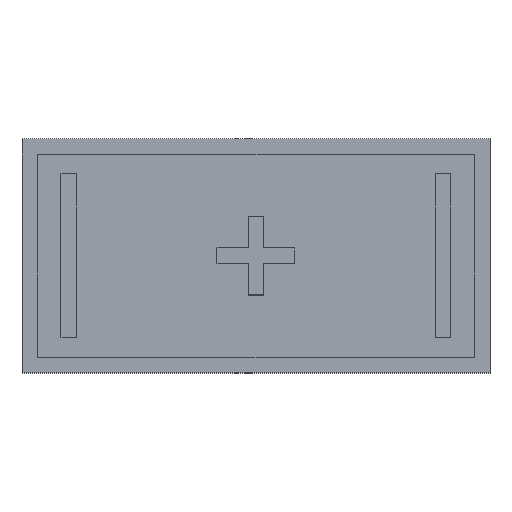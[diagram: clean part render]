
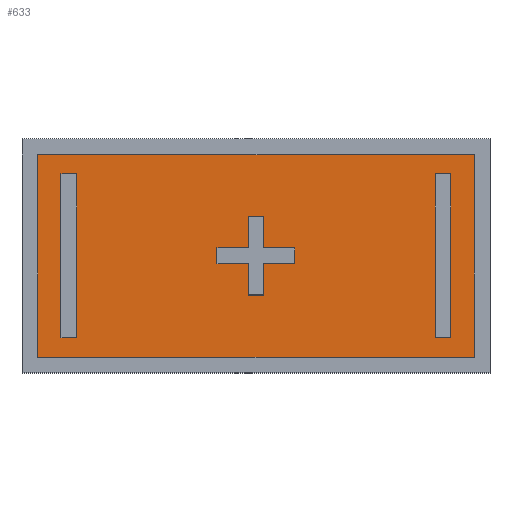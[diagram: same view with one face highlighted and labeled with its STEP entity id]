
A CAD part, top view. The second image highlights one B-rep face of the part: STEP entity #633.
In plain terms, the highlighted planar face has unit normal (0, 0, 1).
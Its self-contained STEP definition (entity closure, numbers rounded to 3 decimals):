
#136=ORIENTED_EDGE('',*,*,#188,.T.);
#137=ORIENTED_EDGE('',*,*,#192,.T.);
#138=ORIENTED_EDGE('',*,*,#195,.T.);
#139=ORIENTED_EDGE('',*,*,#198,.T.);
#140=ORIENTED_EDGE('',*,*,#200,.T.);
#141=ORIENTED_EDGE('',*,*,#204,.T.);
#142=ORIENTED_EDGE('',*,*,#207,.T.);
#143=ORIENTED_EDGE('',*,*,#210,.T.);
#144=ORIENTED_EDGE('',*,*,#213,.T.);
#145=ORIENTED_EDGE('',*,*,#216,.T.);
#146=ORIENTED_EDGE('',*,*,#219,.T.);
#147=ORIENTED_EDGE('',*,*,#222,.T.);
#148=ORIENTED_EDGE('',*,*,#225,.T.);
#149=ORIENTED_EDGE('',*,*,#228,.T.);
#150=ORIENTED_EDGE('',*,*,#231,.T.);
#151=ORIENTED_EDGE('',*,*,#234,.T.);
#152=ORIENTED_EDGE('',*,*,#236,.T.);
#153=ORIENTED_EDGE('',*,*,#240,.T.);
#154=ORIENTED_EDGE('',*,*,#243,.T.);
#155=ORIENTED_EDGE('',*,*,#246,.T.);
#156=ORIENTED_EDGE('',*,*,#259,.F.);
#157=ORIENTED_EDGE('',*,*,#250,.F.);
#158=ORIENTED_EDGE('',*,*,#254,.F.);
#159=ORIENTED_EDGE('',*,*,#257,.F.);
#188=EDGE_CURVE('',#272,#273,#328,.T.);
#192=EDGE_CURVE('',#273,#276,#332,.T.);
#195=EDGE_CURVE('',#276,#278,#335,.T.);
#198=EDGE_CURVE('',#278,#272,#338,.T.);
#200=EDGE_CURVE('',#280,#281,#340,.T.);
#204=EDGE_CURVE('',#281,#284,#344,.T.);
#207=EDGE_CURVE('',#284,#286,#347,.T.);
#210=EDGE_CURVE('',#286,#288,#350,.T.);
#213=EDGE_CURVE('',#288,#290,#353,.T.);
#216=EDGE_CURVE('',#290,#292,#356,.T.);
#219=EDGE_CURVE('',#292,#294,#359,.T.);
#222=EDGE_CURVE('',#294,#296,#362,.T.);
#225=EDGE_CURVE('',#296,#298,#365,.T.);
#228=EDGE_CURVE('',#298,#300,#368,.T.);
#231=EDGE_CURVE('',#300,#302,#371,.T.);
#234=EDGE_CURVE('',#302,#280,#374,.T.);
#236=EDGE_CURVE('',#304,#305,#376,.T.);
#240=EDGE_CURVE('',#305,#308,#380,.T.);
#243=EDGE_CURVE('',#308,#310,#383,.T.);
#246=EDGE_CURVE('',#310,#304,#386,.T.);
#250=EDGE_CURVE('',#314,#315,#390,.T.);
#254=EDGE_CURVE('',#317,#314,#394,.T.);
#257=EDGE_CURVE('',#319,#317,#397,.T.);
#259=EDGE_CURVE('',#315,#319,#399,.T.);
#272=VERTEX_POINT('',#844);
#273=VERTEX_POINT('',#845);
#276=VERTEX_POINT('',#853);
#278=VERTEX_POINT('',#859);
#280=VERTEX_POINT('',#869);
#281=VERTEX_POINT('',#870);
#284=VERTEX_POINT('',#878);
#286=VERTEX_POINT('',#884);
#288=VERTEX_POINT('',#890);
#290=VERTEX_POINT('',#896);
#292=VERTEX_POINT('',#902);
#294=VERTEX_POINT('',#908);
#296=VERTEX_POINT('',#914);
#298=VERTEX_POINT('',#920);
#300=VERTEX_POINT('',#926);
#302=VERTEX_POINT('',#932);
#304=VERTEX_POINT('',#942);
#305=VERTEX_POINT('',#943);
#308=VERTEX_POINT('',#951);
#310=VERTEX_POINT('',#957);
#314=VERTEX_POINT('',#970);
#315=VERTEX_POINT('',#972);
#317=VERTEX_POINT('',#978);
#319=VERTEX_POINT('',#984);
#328=LINE('',#843,#412);
#332=LINE('',#852,#416);
#335=LINE('',#858,#419);
#338=LINE('',#864,#422);
#340=LINE('',#868,#424);
#344=LINE('',#877,#428);
#347=LINE('',#883,#431);
#350=LINE('',#889,#434);
#353=LINE('',#895,#437);
#356=LINE('',#901,#440);
#359=LINE('',#907,#443);
#362=LINE('',#913,#446);
#365=LINE('',#919,#449);
#368=LINE('',#925,#452);
#371=LINE('',#931,#455);
#374=LINE('',#937,#458);
#376=LINE('',#941,#460);
#380=LINE('',#950,#464);
#383=LINE('',#956,#467);
#386=LINE('',#962,#470);
#390=LINE('',#971,#474);
#394=LINE('',#979,#478);
#397=LINE('',#985,#481);
#399=LINE('',#988,#483);
#412=VECTOR('',#691,1000.);
#416=VECTOR('',#697,1000.);
#419=VECTOR('',#702,1000.);
#422=VECTOR('',#707,1000.);
#424=VECTOR('',#713,1000.);
#428=VECTOR('',#719,1000.);
#431=VECTOR('',#724,1000.);
#434=VECTOR('',#729,1000.);
#437=VECTOR('',#734,1000.);
#440=VECTOR('',#739,1000.);
#443=VECTOR('',#744,1000.);
#446=VECTOR('',#749,1000.);
#449=VECTOR('',#754,1000.);
#452=VECTOR('',#759,1000.);
#455=VECTOR('',#764,1000.);
#458=VECTOR('',#769,1000.);
#460=VECTOR('',#775,1000.);
#464=VECTOR('',#781,1000.);
#467=VECTOR('',#786,1000.);
#470=VECTOR('',#791,1000.);
#474=VECTOR('',#799,1000.);
#478=VECTOR('',#805,1000.);
#481=VECTOR('',#810,1000.);
#483=VECTOR('',#814,1000.);
#523=EDGE_LOOP('',(#136,#137,#138,#139));
#524=EDGE_LOOP('',(#140,#141,#142,#143,#144,#145,#146,#147,#148,#149,#150,
#151));
#525=EDGE_LOOP('',(#152,#153,#154,#155));
#526=EDGE_LOOP('',(#156,#157,#158,#159));
#561=FACE_BOUND('',#523,.T.);
#562=FACE_BOUND('',#524,.T.);
#563=FACE_BOUND('',#525,.T.);
#564=FACE_BOUND('',#526,.T.);
#599=PLANE('',#680);
#633=ADVANCED_FACE('',(#561,#562,#563,#564),#599,.F.);
#680=AXIS2_PLACEMENT_3D('',#989,#815,#816);
#691=DIRECTION('',(0.,-1.,0.));
#697=DIRECTION('',(-1.,0.,0.));
#702=DIRECTION('',(0.,1.,0.));
#707=DIRECTION('',(1.,0.,0.));
#713=DIRECTION('',(0.,-1.,0.));
#719=DIRECTION('',(1.,0.,0.));
#724=DIRECTION('',(0.,-1.,0.));
#729=DIRECTION('',(-1.,0.,0.));
#734=DIRECTION('',(0.,-1.,0.));
#739=DIRECTION('',(-1.,0.,0.));
#744=DIRECTION('',(0.,1.,0.));
#749=DIRECTION('',(-1.,0.,0.));
#754=DIRECTION('',(0.,1.,0.));
#759=DIRECTION('',(1.,0.,0.));
#764=DIRECTION('',(0.,1.,0.));
#769=DIRECTION('',(1.,0.,0.));
#775=DIRECTION('',(0.,-1.,0.));
#781=DIRECTION('',(-1.,0.,0.));
#786=DIRECTION('',(0.,1.,0.));
#791=DIRECTION('',(1.,0.,0.));
#799=DIRECTION('',(0.,1.,0.));
#805=DIRECTION('',(-1.,0.,0.));
#810=DIRECTION('',(0.,-1.,0.));
#814=DIRECTION('',(1.,0.,0.));
#815=DIRECTION('',(0.,0.,-1.));
#816=DIRECTION('',(-1.,0.,0.));
#843=CARTESIAN_POINT('',(-11.5,-2.625,-1.5));
#844=CARTESIAN_POINT('',(-11.5,5.25,-1.5));
#845=CARTESIAN_POINT('',(-11.5,-5.25,-1.5));
#852=CARTESIAN_POINT('',(-6.25,-5.25,-1.5));
#853=CARTESIAN_POINT('',(-12.5,-5.25,-1.5));
#858=CARTESIAN_POINT('',(-12.5,2.625,-1.5));
#859=CARTESIAN_POINT('',(-12.5,5.25,-1.5));
#864=CARTESIAN_POINT('',(-5.75,5.25,-1.5));
#868=CARTESIAN_POINT('',(0.5,0.25,-1.5));
#869=CARTESIAN_POINT('',(0.5,2.5,-1.5));
#870=CARTESIAN_POINT('',(0.5,0.5,-1.5));
#877=CARTESIAN_POINT('',(1.25,0.5,-1.5));
#878=CARTESIAN_POINT('',(2.5,0.5,-1.5));
#883=CARTESIAN_POINT('',(2.5,-0.25,-1.5));
#884=CARTESIAN_POINT('',(2.5,-0.5,-1.5));
#889=CARTESIAN_POINT('',(0.25,-0.5,-1.5));
#890=CARTESIAN_POINT('',(0.5,-0.5,-1.5));
#895=CARTESIAN_POINT('',(0.5,-1.25,-1.5));
#896=CARTESIAN_POINT('',(0.5,-2.5,-1.5));
#901=CARTESIAN_POINT('',(-0.25,-2.5,-1.5));
#902=CARTESIAN_POINT('',(-0.5,-2.5,-1.5));
#907=CARTESIAN_POINT('',(-0.5,-0.25,-1.5));
#908=CARTESIAN_POINT('',(-0.5,-0.5,-1.5));
#913=CARTESIAN_POINT('',(-1.25,-0.5,-1.5));
#914=CARTESIAN_POINT('',(-2.5,-0.5,-1.5));
#919=CARTESIAN_POINT('',(-2.5,0.25,-1.5));
#920=CARTESIAN_POINT('',(-2.5,0.5,-1.5));
#925=CARTESIAN_POINT('',(-0.25,0.5,-1.5));
#926=CARTESIAN_POINT('',(-0.5,0.5,-1.5));
#931=CARTESIAN_POINT('',(-0.5,1.25,-1.5));
#932=CARTESIAN_POINT('',(-0.5,2.5,-1.5));
#937=CARTESIAN_POINT('',(0.25,2.5,-1.5));
#941=CARTESIAN_POINT('',(12.5,-2.625,-1.5));
#942=CARTESIAN_POINT('',(12.5,5.25,-1.5));
#943=CARTESIAN_POINT('',(12.5,-5.25,-1.5));
#950=CARTESIAN_POINT('',(5.75,-5.25,-1.5));
#951=CARTESIAN_POINT('',(11.5,-5.25,-1.5));
#956=CARTESIAN_POINT('',(11.5,2.625,-1.5));
#957=CARTESIAN_POINT('',(11.5,5.25,-1.5));
#962=CARTESIAN_POINT('',(6.25,5.25,-1.5));
#970=CARTESIAN_POINT('',(-14.,-6.5,-1.5));
#971=CARTESIAN_POINT('',(-14.,-7.,-1.5));
#972=CARTESIAN_POINT('',(-14.,6.5,-1.5));
#978=CARTESIAN_POINT('',(14.,-6.5,-1.5));
#979=CARTESIAN_POINT('',(14.5,-6.5,-1.5));
#984=CARTESIAN_POINT('',(14.,6.5,-1.5));
#985=CARTESIAN_POINT('',(14.,7.,-1.5));
#988=CARTESIAN_POINT('',(-14.5,6.5,-1.5));
#989=CARTESIAN_POINT('',(0.,0.,-1.5));
